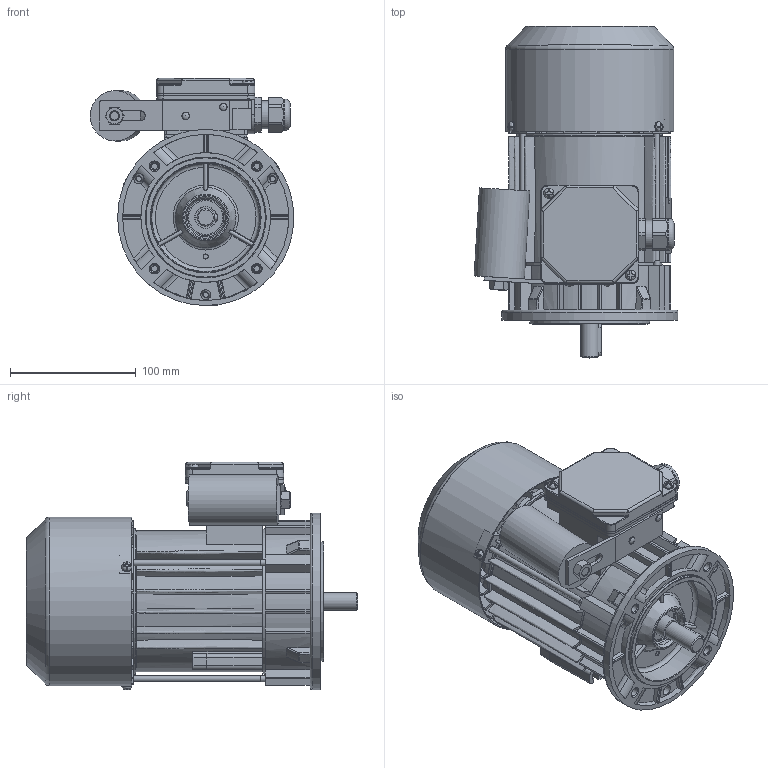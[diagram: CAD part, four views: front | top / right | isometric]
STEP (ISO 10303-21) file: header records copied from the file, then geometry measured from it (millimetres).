
FILE_DESCRIPTION( ( 'Unknown' ), '1' );
FILE_NAME( 'G:/Poczta Tk-1/STP/w.m.71/SEh71/SEKh71-C1.stp', 'Unknown', ( 'K. Szlosek' ), ( 'BESEL S.A.' ), 'PSStep 17.0.49', 'Unknown', ' ' );
FILE_SCHEMA( ( 'AUTOMOTIVE_DESIGN { 1 0 10303 214 1 1 1 1 }' ) );
Length unit declared in the file: millimetre
Products named in the file (34): skrznka zaciskowa jednofazowa ; K4-2820 Uszczelka nr 2 Sh71,80; K2-1131 Podstawa skrzynki zaciskowej jednofazowa; K4-2999 Uchwyt kondensatora; Nit 4x12 po skróceniu; nakrętka M8; K4-0898 Tulejka uszczelniająca; Dławnica M20x1,5; K2-0860 Pokrywka skrzynki zaciskowej; Assem1; K3-2975 Osłona przewietrznika Sh71-.B,C; K4-2320 Uszczelka nr 1 Sh71,80; K1-1194 Kadłub z zamkami Sh71-.C; K3-6469 Tarcza łożyskowa P S(E,M)h71-B,C; Wpust A5x5x25; Wkręt samogwintujący M4x8; Nitokołek A 2x6; k3-4489 Wał SKh71 x-2C1; Wkręt samogwintujący M4x16; Kondensator zb 11-16uF Comar; K3-3984 Przewietrznik Sh71; Łożysko 6203; Śruba ściągająca E_M5x130; Tabliczka znamionowa 32x44; K1-1246 Tarcza kołnierzowa B14_1 w.m. 71
Assembly tree (50 placements, depth 3):
  Assem1
    K3-2975 Osłona przewietrznika Sh71-.B,C
    K4-2320 Uszczelka nr 1 Sh71,80
    K1-1194 Kadłub z zamkami Sh71-.C
    K3-6469 Tarcza łożyskowa P S(E,M)h71-B,C
    Wpust A5x5x25
    Wkręt samogwintujący M4x8  x3
    Nitokołek A 2x6  x2
    k3-4489 Wał SKh71 x-2C1
    Wkręt samogwintujący M4x16  x2
    Kondensator zb 11-16uF Comar
    K3-3984 Przewietrznik Sh71
    Łożysko 6203  x2
    Łożysko 6203  x2
    Łożysko 6203  x2
    Łożysko 6203  x2
    Łożysko 6203  x2
    Łożysko 6203  x2
    Łożysko 6203  x2
    Łożysko 6203  x2
    Łożysko 6203  x2
    Łożysko 6203  x2
    Śruba ściągająca E_M5x130  x3
    Tabliczka znamionowa 32x44
    K1-1246 Tarcza kołnierzowa B14_1 w.m. 71
    skrznka zaciskowa jednofazowa 
      K4-2820 Uszczelka nr 2 Sh71,80
      K2-1131 Podstawa skrzynki zaciskowej jednofazowa
      K4-2999 Uchwyt kondensatora
      Nit 4x12 po skróceniu  x2
      nakrętka M8
      K4-0898 Tulejka uszczelniająca
      Dławnica M20x1,5
      K2-0860 Pokrywka skrzynki zaciskowej
Bounding box: 161.81 x 263.5 x 180.57 mm (x, y, z)
Volume: 781622.3 mm3; surface area: 476273.8 mm2
Topology: 49 solids, 65 shells, 2528 faces, 6826 edges, 4377 vertices
Faces by surface type: plane 1016, cylinder 737, bspline 345, torus 205, cone 175, sphere 50
Full cylindrical faces by diameter (mm): 2 x2, 2.4 x2, 3 x1, 3.7 x7, 3.8 x4, 4 x8, 4.134 x3, 4.3 x2, 4.5 x3, 4.6 x3, 4.8 x4, 5 x7, 5.5 x3, 6 x2, 6.5 x1, 6.647 x1, 6.8 x4, 7 x1, 8 x10, 10 x2, 14 x1, 15.9 x1, 16.1 x1, 16.5 x1, 17 x4, 17.4 x2, 18.376 x1, 18.38 x1, 20 x1, 22 x2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
Entity records: 145650 total; most frequent: CARTESIAN_POINT 70335, ORIENTED_EDGE 12096, DIRECTION 10903, EDGE_CURVE 6048, AXIS2_PLACEMENT_3D 4204, VERTEX_POINT 4036, EDGE_LOOP 2802, LINE 2495
